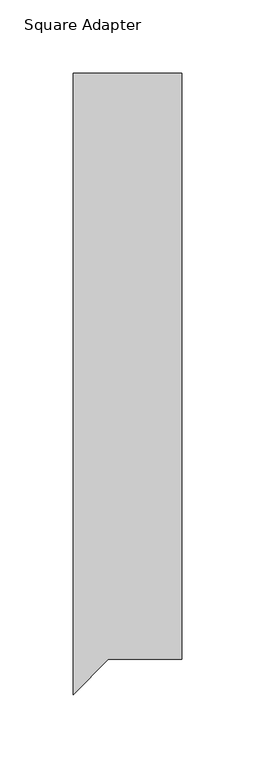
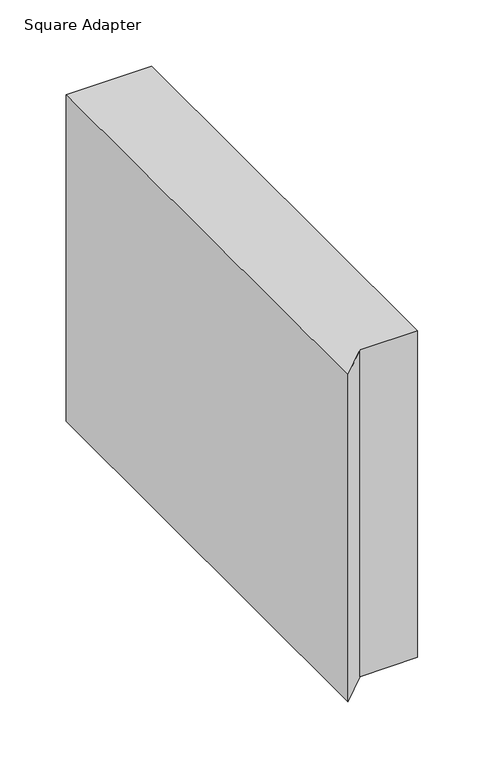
"""IFC4 building model written with IfcOpenShell, lengths in millimetres: duct fitting geometry, Prihoda Square Duct Adapter : Square Adapter."""

from ifc_helpers import new_model, si_unit, frame, origin, place, context, project, spatial, polyline, outline, extrude, source, transform, mapped, element, save


def square_adapter_45a1a68f(model_context):
    return source(origin(), model_context, "Body", "SweptSolid", [
        extrude(outline(polyline([(-4.0, -224.0), (-4.0, 200.0), (70.0, 200.0), (70.0, -200.0), (20.0, -200.0), (-4.0, -224.0)])), frame((0.0, 0.0, -150.0), z_axis=(0.0, 0.0, 1.0), x_axis=(1.0, 0.0, 0.0)), (0.0, 0.0, 1.0), 300.0),
    ])


if __name__ == "__main__":
    model = new_model("IFC4")
    model_context = context("Model", 3, world=origin())
    ifc_project = project(units=[si_unit("LENGTHUNIT", "METRE", prefix="MILLI")], contexts=[model_context])
    site = spatial("IfcSite", under=ifc_project)
    building = spatial("IfcBuilding", under=site)
    placement = place(None, origin())
    square_adapter_shape = square_adapter_45a1a68f(model_context)
    element("IfcDuctFitting", 1, ObjectType="Prihoda Square Duct Adapter : Square Adapter", at=placement, inside=building, context=model_context, shape_type="MappedRepresentation", body=[
        mapped(square_adapter_shape, transform((0.0, 0.0, 0.0), x_axis=(1.0, 0.0, 0.0), y_axis=(0.0, 1.0, 0.0), z_axis=(0.0, 0.0, 1.0))),
    ])
    save(model, "model.ifc")
